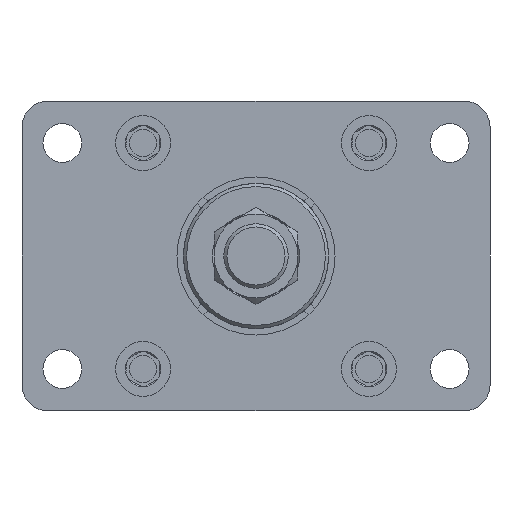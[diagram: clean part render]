
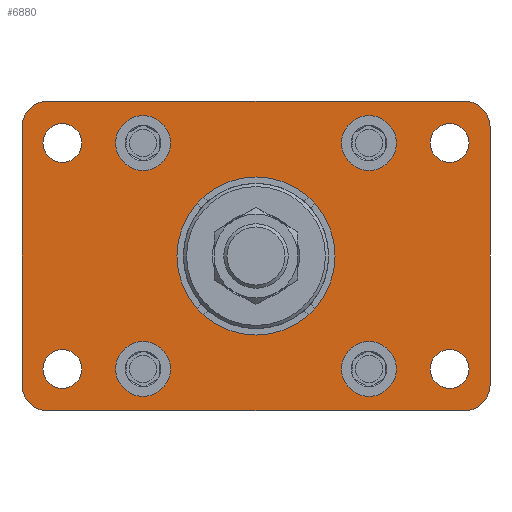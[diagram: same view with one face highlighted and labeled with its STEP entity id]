
A CAD part, front view. The second image highlights one B-rep face of the part: STEP entity #6880.
In plain terms, the highlighted planar face has unit normal (0, -1, 0).
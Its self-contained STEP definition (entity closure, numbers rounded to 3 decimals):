
#610=LINE('',#10522,#1000);
#614=LINE('',#10531,#1004);
#618=LINE('',#10540,#1008);
#624=LINE('',#10554,#1014);
#1000=VECTOR('',#8907,1000.);
#1004=VECTOR('',#8913,1000.);
#1008=VECTOR('',#8919,1000.);
#1014=VECTOR('',#8927,1000.);
#2300=ORIENTED_EDGE('',*,*,#3034,.T.);
#2301=ORIENTED_EDGE('',*,*,#3035,.T.);
#2302=ORIENTED_EDGE('',*,*,#3036,.T.);
#2303=ORIENTED_EDGE('',*,*,#3037,.T.);
#2304=ORIENTED_EDGE('',*,*,#3038,.T.);
#2305=ORIENTED_EDGE('',*,*,#3039,.T.);
#2306=ORIENTED_EDGE('',*,*,#3040,.T.);
#2307=ORIENTED_EDGE('',*,*,#3041,.T.);
#2308=ORIENTED_EDGE('',*,*,#3042,.T.);
#2309=ORIENTED_EDGE('',*,*,#3032,.T.);
#2310=ORIENTED_EDGE('',*,*,#3043,.T.);
#2311=ORIENTED_EDGE('',*,*,#3018,.T.);
#2312=ORIENTED_EDGE('',*,*,#3044,.T.);
#2313=ORIENTED_EDGE('',*,*,#3022,.T.);
#2314=ORIENTED_EDGE('',*,*,#3045,.T.);
#2315=ORIENTED_EDGE('',*,*,#3026,.T.);
#2316=ORIENTED_EDGE('',*,*,#3046,.T.);
#3018=EDGE_CURVE('',#3510,#3511,#610,.T.);
#3022=EDGE_CURVE('',#3514,#3515,#614,.T.);
#3026=EDGE_CURVE('',#3518,#3519,#618,.T.);
#3032=EDGE_CURVE('',#3525,#3524,#624,.T.);
#3034=EDGE_CURVE('',#3526,#3526,#3782,.F.);
#3035=EDGE_CURVE('',#3527,#3527,#3783,.F.);
#3036=EDGE_CURVE('',#3528,#3528,#3784,.F.);
#3037=EDGE_CURVE('',#3529,#3529,#3785,.F.);
#3038=EDGE_CURVE('',#3530,#3530,#3786,.F.);
#3039=EDGE_CURVE('',#3531,#3531,#3787,.F.);
#3040=EDGE_CURVE('',#3532,#3532,#3788,.F.);
#3041=EDGE_CURVE('',#3533,#3533,#3789,.F.);
#3042=EDGE_CURVE('',#3534,#3534,#3790,.F.);
#3043=EDGE_CURVE('',#3524,#3510,#3791,.T.);
#3044=EDGE_CURVE('',#3511,#3514,#3792,.T.);
#3045=EDGE_CURVE('',#3515,#3518,#3793,.T.);
#3046=EDGE_CURVE('',#3519,#3525,#3794,.T.);
#3510=VERTEX_POINT('',#10523);
#3511=VERTEX_POINT('',#10524);
#3514=VERTEX_POINT('',#10532);
#3515=VERTEX_POINT('',#10533);
#3518=VERTEX_POINT('',#10541);
#3519=VERTEX_POINT('',#10542);
#3524=VERTEX_POINT('',#10553);
#3525=VERTEX_POINT('',#10555);
#3526=VERTEX_POINT('',#10559);
#3527=VERTEX_POINT('',#10561);
#3528=VERTEX_POINT('',#10563);
#3529=VERTEX_POINT('',#10565);
#3530=VERTEX_POINT('',#10567);
#3531=VERTEX_POINT('',#10569);
#3532=VERTEX_POINT('',#10571);
#3533=VERTEX_POINT('',#10573);
#3534=VERTEX_POINT('',#10575);
#3782=CIRCLE('',#7450,24.5);
#3783=CIRCLE('',#7451,8.5);
#3784=CIRCLE('',#7452,8.5);
#3785=CIRCLE('',#7453,8.5);
#3786=CIRCLE('',#7454,8.5);
#3787=CIRCLE('',#7455,6.);
#3788=CIRCLE('',#7456,6.);
#3789=CIRCLE('',#7457,6.);
#3790=CIRCLE('',#7458,6.);
#3791=CIRCLE('',#7459,8.);
#3792=CIRCLE('',#7460,8.);
#3793=CIRCLE('',#7461,8.);
#3794=CIRCLE('',#7462,8.);
#4178=EDGE_LOOP('',(#2300));
#4179=EDGE_LOOP('',(#2301));
#4180=EDGE_LOOP('',(#2302));
#4181=EDGE_LOOP('',(#2303));
#4182=EDGE_LOOP('',(#2304));
#4183=EDGE_LOOP('',(#2305));
#4184=EDGE_LOOP('',(#2306));
#4185=EDGE_LOOP('',(#2307));
#4186=EDGE_LOOP('',(#2308));
#4187=EDGE_LOOP('',(#2309,#2310,#2311,#2312,#2313,#2314,#2315,#2316));
#4598=FACE_BOUND('',#4178,.T.);
#4599=FACE_BOUND('',#4179,.T.);
#4600=FACE_BOUND('',#4180,.T.);
#4601=FACE_BOUND('',#4181,.T.);
#4602=FACE_BOUND('',#4182,.T.);
#4603=FACE_BOUND('',#4183,.T.);
#4604=FACE_BOUND('',#4184,.T.);
#4605=FACE_BOUND('',#4185,.T.);
#4606=FACE_BOUND('',#4186,.T.);
#4607=FACE_BOUND('',#4187,.T.);
#4813=PLANE('',#7449);
#6880=ADVANCED_FACE('',(#4598,#4599,#4600,#4601,#4602,#4603,#4604,#4605,
#4606,#4607),#4813,.T.);
#7449=AXIS2_PLACEMENT_3D('',#10557,#8929,#8930);
#7450=AXIS2_PLACEMENT_3D('',#10558,#8931,#8932);
#7451=AXIS2_PLACEMENT_3D('',#10560,#8933,#8934);
#7452=AXIS2_PLACEMENT_3D('',#10562,#8935,#8936);
#7453=AXIS2_PLACEMENT_3D('',#10564,#8937,#8938);
#7454=AXIS2_PLACEMENT_3D('',#10566,#8939,#8940);
#7455=AXIS2_PLACEMENT_3D('',#10568,#8941,#8942);
#7456=AXIS2_PLACEMENT_3D('',#10570,#8943,#8944);
#7457=AXIS2_PLACEMENT_3D('',#10572,#8945,#8946);
#7458=AXIS2_PLACEMENT_3D('',#10574,#8947,#8948);
#7459=AXIS2_PLACEMENT_3D('',#10576,#8949,#8950);
#7460=AXIS2_PLACEMENT_3D('',#10577,#8951,#8952);
#7461=AXIS2_PLACEMENT_3D('',#10578,#8953,#8954);
#7462=AXIS2_PLACEMENT_3D('',#10579,#8955,#8956);
#8907=DIRECTION('',(0.,0.,-1.));
#8913=DIRECTION('',(1.,0.,0.));
#8919=DIRECTION('',(0.,0.,1.));
#8927=DIRECTION('',(-1.,0.,0.));
#8929=DIRECTION('',(0.,-1.,0.));
#8930=DIRECTION('',(0.,0.,-1.));
#8931=DIRECTION('',(0.,-1.,0.));
#8932=DIRECTION('',(0.,0.,-1.));
#8933=DIRECTION('',(0.,-1.,0.));
#8934=DIRECTION('',(0.,0.,-1.));
#8935=DIRECTION('',(0.,-1.,0.));
#8936=DIRECTION('',(0.,0.,-1.));
#8937=DIRECTION('',(0.,-1.,0.));
#8938=DIRECTION('',(0.,0.,-1.));
#8939=DIRECTION('',(0.,-1.,0.));
#8940=DIRECTION('',(0.,0.,-1.));
#8941=DIRECTION('',(0.,-1.,0.));
#8942=DIRECTION('',(0.,0.,-1.));
#8943=DIRECTION('',(0.,-1.,0.));
#8944=DIRECTION('',(0.,0.,-1.));
#8945=DIRECTION('',(0.,-1.,0.));
#8946=DIRECTION('',(0.,0.,-1.));
#8947=DIRECTION('',(0.,-1.,0.));
#8948=DIRECTION('',(0.,0.,-1.));
#8949=DIRECTION('',(0.,-1.,0.));
#8950=DIRECTION('',(0.,0.,-1.));
#8951=DIRECTION('',(0.,-1.,0.));
#8952=DIRECTION('',(0.,0.,-1.));
#8953=DIRECTION('',(0.,-1.,0.));
#8954=DIRECTION('',(0.,0.,-1.));
#8955=DIRECTION('',(0.,-1.,0.));
#8956=DIRECTION('',(0.,0.,-1.));
#10522=CARTESIAN_POINT('',(-72.5,-16.,28.));
#10523=CARTESIAN_POINT('',(-72.5,-16.,40.));
#10524=CARTESIAN_POINT('',(-72.5,-16.,-40.));
#10531=CARTESIAN_POINT('',(-43.,-16.,-48.));
#10532=CARTESIAN_POINT('',(-64.5,-16.,-48.));
#10533=CARTESIAN_POINT('',(64.5,-16.,-48.));
#10540=CARTESIAN_POINT('',(72.5,-16.,-28.));
#10541=CARTESIAN_POINT('',(72.5,-16.,-40.));
#10542=CARTESIAN_POINT('',(72.5,-16.,40.));
#10553=CARTESIAN_POINT('',(-64.5,-16.,48.));
#10554=CARTESIAN_POINT('',(43.,-16.,48.));
#10555=CARTESIAN_POINT('',(64.5,-16.,48.));
#10557=CARTESIAN_POINT('',(0.,-16.,0.));
#10558=CARTESIAN_POINT('',(0.,-16.,0.));
#10559=CARTESIAN_POINT('',(0.,-16.,-24.5));
#10560=CARTESIAN_POINT('',(-35.,-16.,-35.));
#10561=CARTESIAN_POINT('',(-35.,-16.,-43.5));
#10562=CARTESIAN_POINT('',(35.,-16.,-35.));
#10563=CARTESIAN_POINT('',(35.,-16.,-43.5));
#10564=CARTESIAN_POINT('',(35.,-16.,35.));
#10565=CARTESIAN_POINT('',(35.,-16.,26.5));
#10566=CARTESIAN_POINT('',(-35.,-16.,35.));
#10567=CARTESIAN_POINT('',(-35.,-16.,26.5));
#10568=CARTESIAN_POINT('',(60.,-16.,-35.));
#10569=CARTESIAN_POINT('',(60.,-16.,-41.));
#10570=CARTESIAN_POINT('',(-60.,-16.,-35.));
#10571=CARTESIAN_POINT('',(-60.,-16.,-41.));
#10572=CARTESIAN_POINT('',(-60.,-16.,35.));
#10573=CARTESIAN_POINT('',(-60.,-16.,29.));
#10574=CARTESIAN_POINT('',(60.,-16.,35.));
#10575=CARTESIAN_POINT('',(60.,-16.,29.));
#10576=CARTESIAN_POINT('',(-64.5,-16.,40.));
#10577=CARTESIAN_POINT('',(-64.5,-16.,-40.));
#10578=CARTESIAN_POINT('',(64.5,-16.,-40.));
#10579=CARTESIAN_POINT('',(64.5,-16.,40.));
